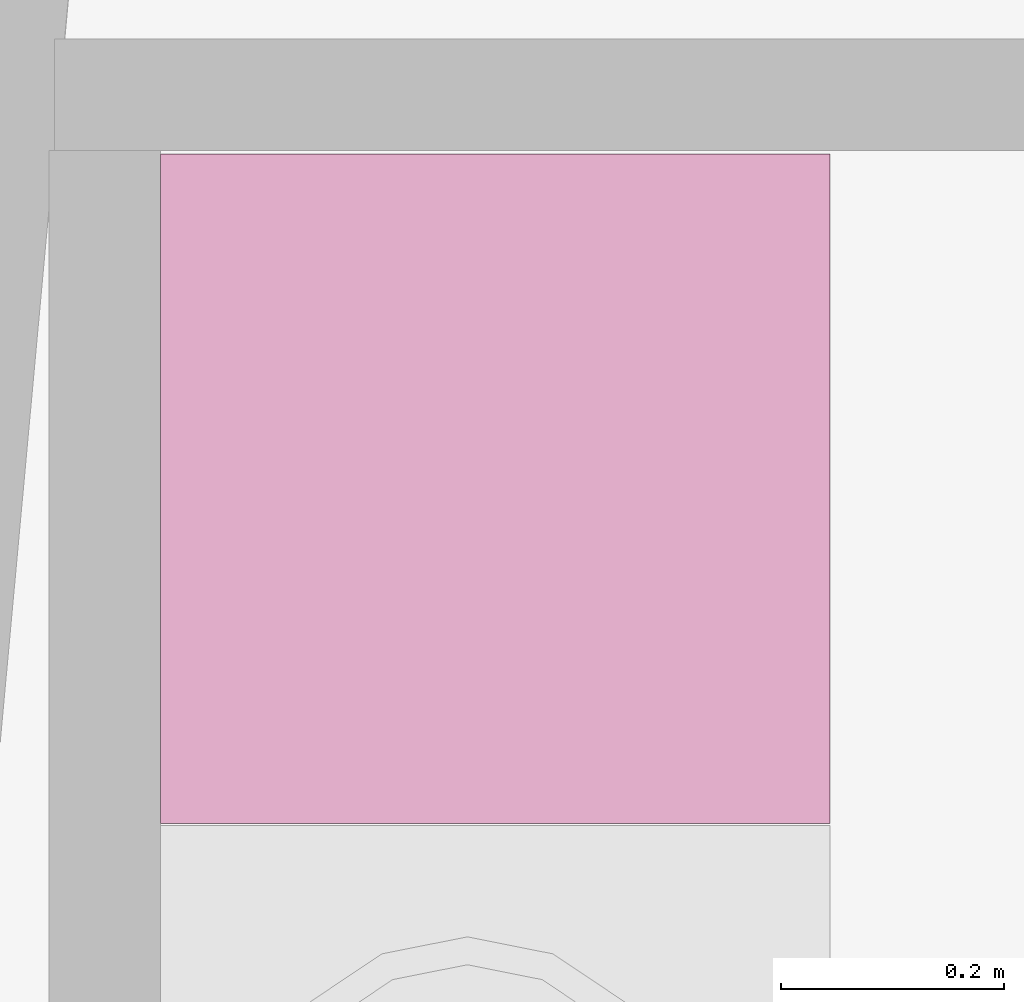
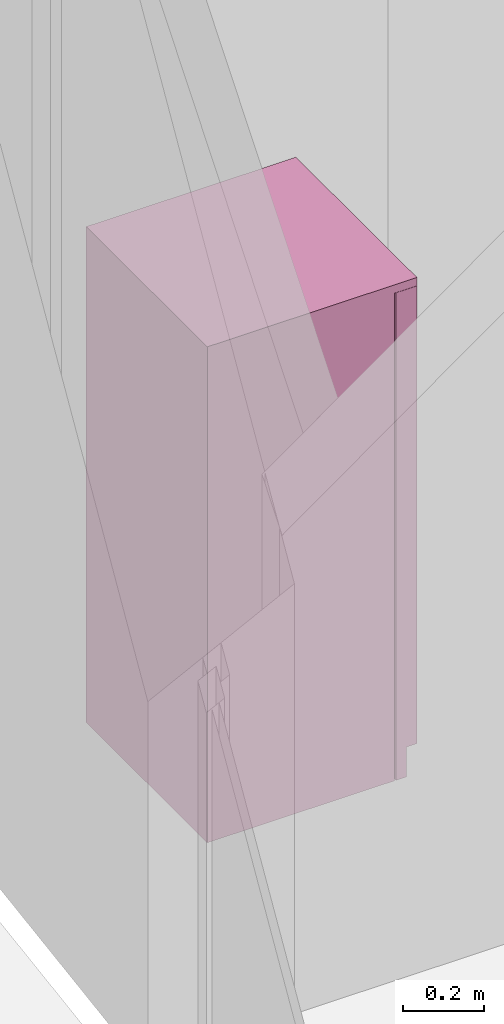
# One storey, part 35 of 36: 1 furnishing.
"""IFC2X3 building model written with IfcOpenShell, lengths in millimetres."""

from ifc_helpers import new_model, entity, si_unit, converted_unit, money_unit, direction, frame, origin_with_axes, place, context, subcontext, project, spatial, open_shell, faceted_brep, surface_model, material, material_list, type_object, element, save


model = new_model("IFC2X3")

# Units and contexts
model_context = context("Model", 3, precision=1e-05, world=origin_with_axes(), true_north=direction((0.0, 1.0)))
body_context = subcontext(model_context, "Body", "Model", "MODEL_VIEW")
ifc_project = project(units=[si_unit("LENGTHUNIT", "METRE", prefix="MILLI"), si_unit("AREAUNIT", "SQUARE_METRE"), si_unit("VOLUMEUNIT", "CUBIC_METRE"), converted_unit("PLANEANGLEUNIT", "DEGREE", entity("IfcPlaneAngleMeasure", 0.0174532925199), si_unit("PLANEANGLEUNIT", "RADIAN"), dimensions=[0, 0, 0, 0, 0, 0, 0]), si_unit("SOLIDANGLEUNIT", "STERADIAN"), money_unit("USD"), converted_unit("TIMEUNIT", "Year", entity("IfcTimeMeasure", 31556926.0), si_unit("TIMEUNIT", "SECOND"), dimensions=[0, 0, 0, 0, 0, 0, 0]), si_unit("MASSUNIT", "GRAM"), si_unit("THERMODYNAMICTEMPERATUREUNIT", "DEGREE_CELSIUS"), si_unit("LUMINOUSINTENSITYUNIT", "LUMEN")], contexts=[model_context])

# Site, building, storey
site_placement = place(None, origin_with_axes())
site = spatial("IfcSite", under=ifc_project, at=site_placement, Name="Site", CompositionType="ELEMENT")
building_placement = place(site_placement, origin_with_axes())
building = spatial("IfcBuilding", under=site, at=building_placement, Name="Building", CompositionType="ELEMENT")
storey_placement = place(building_placement, frame((0.0, 0.0, -3400.0), z_axis=(0.0, 0.0, 1.0), x_axis=(1.0, 0.0, 0.0)))
storey = spatial("IfcBuildingStorey", under=building, at=storey_placement, Name="1KORRUS", CompositionType="ELEMENT", Elevation=-3400.0)

# Furnishing
ifc_material = material(Name="Background")
ifc_material_list = material_list([ifc_material])
furnishing_element_type = type_object("IfcFurnishingElementType", Name="Refrigerator 19")
furnishing_placement = place(storey_placement, frame((-56715.1190967, -7040.65618908, 0.0), z_axis=(0.0, 0.0, 1.0), x_axis=(0.0, 1.0, 0.0)))
element("IfcFurnishingElement", 1, at=furnishing_placement, inside=storey, type_object=furnishing_element_type, material=ifc_material_list, Name="FU - 007", context=body_context, shape_type="SurfaceModel", body=[
    faceted_brep([(0.0, 0.0, 1475.0), (600.0, 0.0, 1475.0), (600.0, 0.0, 1500.0), (0.0, 0.0, 1500.0), (0.0, 600.0, 1475.0), (600.0, 600.0, 1475.0), (600.0, 600.0, 1500.0), (0.0, 600.0, 1500.0)], [[[0, 1, 2, 3]], [[0, 4, 5, 1]], [[1, 5, 6, 2]], [[3, 2, 6, 7]], [[4, 0, 3, 7]], [[5, 4, 7, 6]]]),
    faceted_brep([(0.0, 65.0, 0.0), (600.0, 65.0, 0.0), (600.0, 65.0, 1475.0), (0.0, 65.0, 1475.0), (0.0, 600.0, 0.0), (600.0, 600.0, 0.0), (600.0, 600.0, 1475.0), (0.0, 600.0, 1475.0)], [[[0, 1, 2, 3]], [[0, 4, 5, 1]], [[1, 5, 6, 2]], [[3, 2, 6, 7]], [[4, 0, 3, 7]], [[5, 4, 7, 6]]]),
    faceted_brep([(0.0, 30.0, 0.0), (600.0, 30.0, 0.0), (600.0, 30.0, 90.0), (0.0, 30.0, 90.0), (0.0, 60.0, 0.0), (600.0, 60.0, 0.0), (600.0, 60.0, 90.0), (0.0, 60.0, 90.0)], [[[0, 1, 2, 3]], [[0, 4, 5, 1]], [[1, 5, 6, 2]], [[3, 2, 6, 7]], [[4, 0, 3, 7]], [[5, 4, 7, 6]]]),
    faceted_brep([(0.0, 60.0, 90.0), (600.0, 60.0, 90.0), (600.0, 0.0, 90.0), (0.0, 0.0, 90.0), (0.0, 60.0, 1474.5), (600.0, 60.0, 1474.5), (600.0, 0.0, 1474.5), (0.0, 0.0, 1474.5)], [[[0, 1, 2, 3]], [[0, 4, 5, 1]], [[1, 5, 6, 2]], [[3, 2, 6, 7]], [[4, 0, 3, 7]], [[5, 4, 7, 6]]]),
    surface_model("IfcShellBasedSurfaceModel", [(600.0, -30.0, 900.0), (600.0, -30.0, 1100.0), (600.0, 0.0, 1100.0), (600.0, 0.0, 900.0)], [open_shell([[[0, 1, 2, 3]]])]),
    surface_model("IfcShellBasedSurfaceModel", [(600.0, -30.0, 900.0), (600.0, -30.0, 1100.0), (570.0, -30.0, 1100.0), (570.0, -30.0, 900.0)], [open_shell([[[0, 1, 2, 3]]])]),
])

save(model, "model.ifc")
